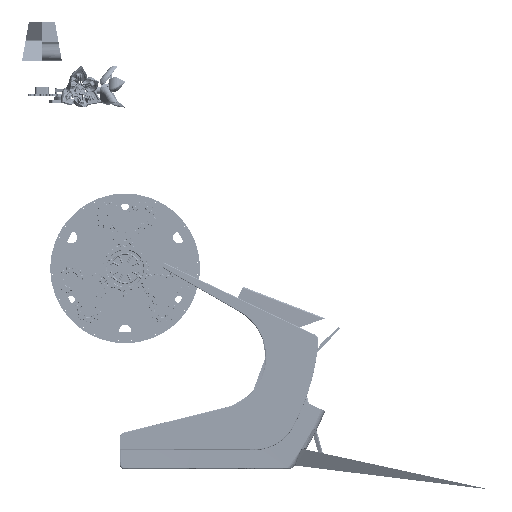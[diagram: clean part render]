
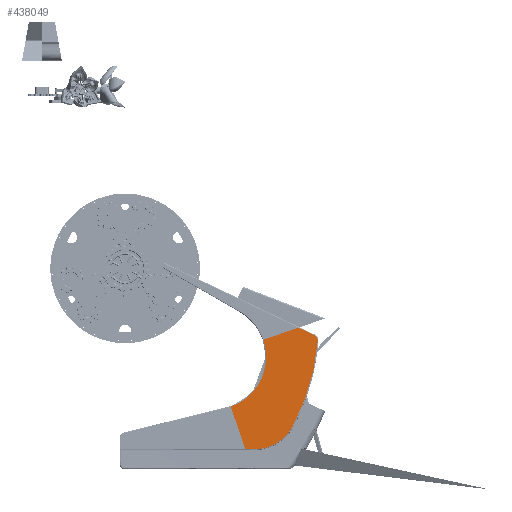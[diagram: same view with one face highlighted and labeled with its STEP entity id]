
A CAD part, left-side view. The second image highlights one B-rep face of the part: STEP entity #438049.
In plain terms, the highlighted planar face has unit normal (-1, 0.028, 0.01).
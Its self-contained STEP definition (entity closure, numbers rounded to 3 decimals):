
#437337=CARTESIAN_POINT('',(1424.997,1105.984,181.746));
#437338=VERTEX_POINT('',#437337);
#437353=CARTESIAN_POINT('',(1428.826,1172.533,375.02));
#437354=VERTEX_POINT('',#437353);
#437355=CARTESIAN_POINT('',(1428.826,1172.533,375.02));
#437356=DIRECTION('',(-0.019,-0.326,-0.945));
#437357=VECTOR('',#437356,1.);
#437358=LINE('',#437355,#437357);
#437359=EDGE_CURVE('',#437354,#437338,#437358,.T.);
#437910=CARTESIAN_POINT('',(1427.837,1025.031,677.463));
#437911=VERTEX_POINT('',#437910);
#437930=CARTESIAN_POINT('',(1423.98,865.699,732.326));
#437931=VERTEX_POINT('',#437930);
#437932=CARTESIAN_POINT('',(1427.837,1025.031,677.463));
#437933=DIRECTION('',(-0.023,-0.945,0.325));
#437934=VECTOR('',#437933,1.);
#437935=LINE('',#437932,#437934);
#437936=EDGE_CURVE('',#437911,#437931,#437935,.T.);
#437978=CARTESIAN_POINT('',(1415.091,759.055,154.305));
#437979=DIRECTION('',(1.,-0.028,-0.01));
#437980=DIRECTION('',(0.028,1.,0.));
#437981=AXIS2_PLACEMENT_3D('',#437978,#437979,#437980);
#437982=PLANE('',#437981);
#437983=ORIENTED_EDGE('',*,*,#437359,.T.);
#437984=CARTESIAN_POINT('',(1423.887,1065.982,181.744));
#437985=VERTEX_POINT('',#437984);
#437986=CARTESIAN_POINT('',(1423.887,1065.982,181.744));
#437987=DIRECTION('',(0.028,1.,0.));
#437988=VECTOR('',#437987,1.);
#437989=LINE('',#437986,#437988);
#437990=EDGE_CURVE('',#437985,#437338,#437989,.T.);
#437991=ORIENTED_EDGE('',*,*,#437990,.F.);
#437992=CARTESIAN_POINT('',(1420.149,893.155,284.721));
#437993=VERTEX_POINT('',#437992);
#437994=CARTESIAN_POINT('',(1420.149,893.155,284.721));
#437995=CARTESIAN_POINT('',(1420.458,928.382,219.626));
#437996=CARTESIAN_POINT('',(1421.834,991.966,181.74));
#437997=CARTESIAN_POINT('',(1423.887,1065.982,181.744));
#438005=(BOUNDED_CURVE()B_SPLINE_CURVE(3,(#437994,#437995,#437996,#437997),.UNSPECIFIED.,.F.,.U.)CURVE()GEOMETRIC_REPRESENTATION_ITEM()QUASI_UNIFORM_CURVE()RATIONAL_B_SPLINE_CURVE((1.0,0.906,0.906,1.0))REPRESENTATION_ITEM(''));
#438006=EDGE_CURVE('',#437993,#437985,#438005,.T.);
#438007=ORIENTED_EDGE('',*,*,#438006,.F.);
#438008=CARTESIAN_POINT('',(1420.95,778.784,672.057));
#438009=VERTEX_POINT('',#438008);
#438010=CARTESIAN_POINT('',(1448.635,1748.64,747.819));
#438011=DIRECTION('',(1.,-0.028,-0.01));
#438012=DIRECTION('',(-0.028,-0.997,-0.078));
#438013=AXIS2_PLACEMENT_3D('',#438010,#438011,#438012);
#438014=CIRCLE('',#438013,973.204);
#438015=EDGE_CURVE('',#438009,#437993,#438014,.T.);
#438016=ORIENTED_EDGE('',*,*,#438015,.F.);
#438017=CARTESIAN_POINT('',(1421.634,793.799,698.047));
#438018=VERTEX_POINT('',#438017);
#438019=CARTESIAN_POINT('',(1421.704,805.202,674.117));
#438020=DIRECTION('',(1.,-0.028,-0.01));
#438021=DIRECTION('',(-0.003,-0.43,0.903));
#438022=AXIS2_PLACEMENT_3D('',#438019,#438020,#438021);
#438023=CIRCLE('',#438022,26.508);
#438024=EDGE_CURVE('',#438018,#438009,#438023,.T.);
#438025=ORIENTED_EDGE('',*,*,#438024,.F.);
#438026=CARTESIAN_POINT('',(1423.98,865.699,732.326));
#438027=DIRECTION('',(-0.029,-0.902,-0.43));
#438028=VECTOR('',#438027,1.);
#438029=LINE('',#438026,#438028);
#438030=EDGE_CURVE('',#437931,#438018,#438029,.T.);
#438031=ORIENTED_EDGE('',*,*,#438030,.F.);
#438032=ORIENTED_EDGE('',*,*,#437936,.F.);
#438033=CARTESIAN_POINT('',(1428.826,1172.533,375.02));
#438034=CARTESIAN_POINT('',(1425.637,1040.779,420.429));
#438035=CARTESIAN_POINT('',(1425.227,979.692,545.685));
#438036=CARTESIAN_POINT('',(1427.837,1025.031,677.463));
#438044=(BOUNDED_CURVE()B_SPLINE_CURVE(3,(#438033,#438034,#438035,#438036),.UNSPECIFIED.,.F.,.U.)CURVE()GEOMETRIC_REPRESENTATION_ITEM()QUASI_UNIFORM_CURVE()RATIONAL_B_SPLINE_CURVE((1.0,0.805,0.805,1.0))REPRESENTATION_ITEM(''));
#438045=EDGE_CURVE('',#437354,#437911,#438044,.T.);
#438046=ORIENTED_EDGE('',*,*,#438045,.F.);
#438047=EDGE_LOOP('',(#437983,#437991,#438007,#438016,#438025,#438031,#438032,#438046));
#438048=FACE_OUTER_BOUND('',#438047,.T.);
#438049=ADVANCED_FACE('',(#438048),#437982,.F.);
